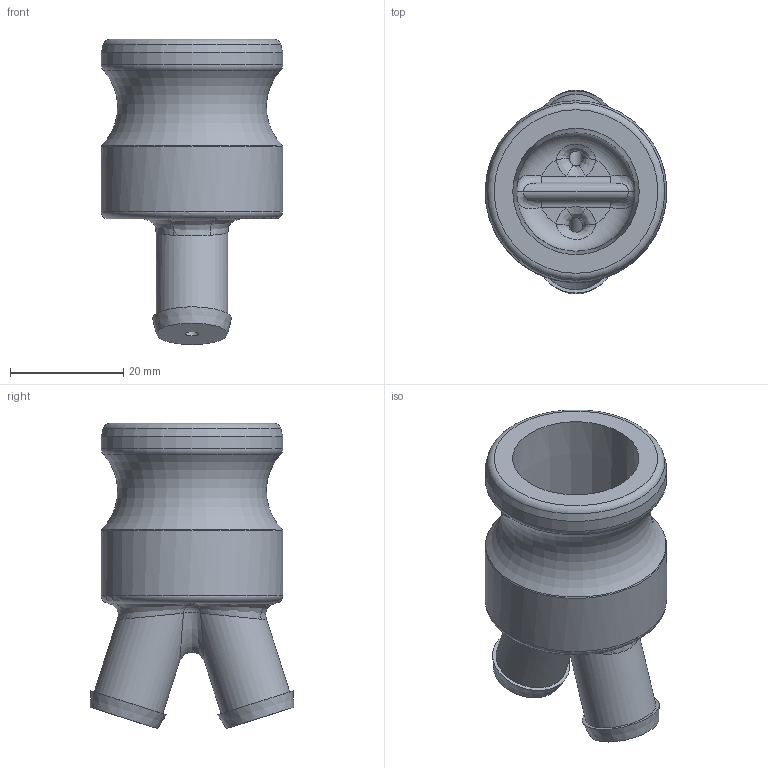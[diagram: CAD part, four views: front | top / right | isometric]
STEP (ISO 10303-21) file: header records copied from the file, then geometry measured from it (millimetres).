
FILE_DESCRIPTION(/* description */ ('Alibre Inc.'),/* implementation_level */ '2;1');
FILE_NAME(/* name */ 'export0',/* time_stamp */ '2017-02-19T14:03:04-05:00',/* author */ (''),/* organization */ (''),/* preprocessor_version */ 'ST-DEVELOPER v14',/* originating_system */ 'Alibre',/* authorisation */ '');
FILE_SCHEMA (('CONFIG_CONTROL_DESIGN'));
Length unit declared in the file: centimetre
Products named in the file (1): ID_1
Bounding box: 32.11 x 36.05 x 53.97 mm (x, y, z)
Volume: 17391.3 mm3; surface area: 8535 mm2
Topology: 1 solids, 1 shells, 55 faces, 126 edges, 72 vertices
Faces by surface type: bspline 21, plane 12, cylinder 10, torus 5, cone 5, sphere 2
Full cylindrical faces by diameter (mm): 2.381 x2, 12.7 x2, 32.106 x2
Entity records: 3664 total; most frequent: CARTESIAN_POINT 2564, ORIENTED_EDGE 204, DIRECTION 181, EDGE_CURVE 102, AXIS2_PLACEMENT_3D 94, EDGE_LOOP 76, FACE_BOUND 76, VERTEX_POINT 66
